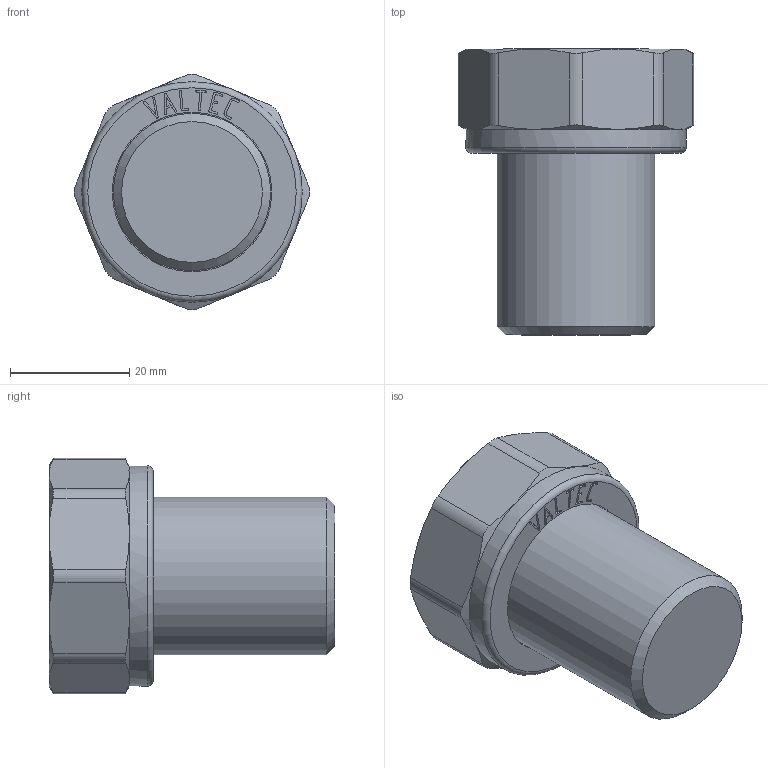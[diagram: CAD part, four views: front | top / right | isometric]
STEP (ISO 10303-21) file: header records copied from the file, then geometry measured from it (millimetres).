
FILE_DESCRIPTION(('STEP AP203'), '1');
FILE_NAME('覆.302638.011.000 捘 - VTr.613.N.0605', '2024-07-10T08:45:06', ('Boss'), (''), 'C3D Converter', 'C3D Toolkit', '');
FILE_SCHEMA(('CONFIG_CONTROL_DESIGN'));
Length unit declared in the file: millimetre
Products named in the file (1): ВР.302638.011.000 СБ
Bounding box: 39.55 x 48 x 39.55 mm (x, y, z)
Volume: 29526.2 mm3; surface area: 8035 mm2
Topology: 1 solids, 1 shells, 160 faces, 427 edges, 279 vertices
Faces by surface type: extrusion 71, plane 60, cone 16, cylinder 12, torus 1
Full cylindrical faces by diameter (mm): 26.441 x1, 26.8 x1, 30.292 x1, 37 x1
Entity records: 6312 total; most frequent: CARTESIAN_POINT 2664, ORIENTED_EDGE 844, DIRECTION 510, EDGE_CURVE 422, VECTOR 280, VERTEX_POINT 279, B_SPLINE_CURVE_WITH_KNOTS 259, LINE 209
